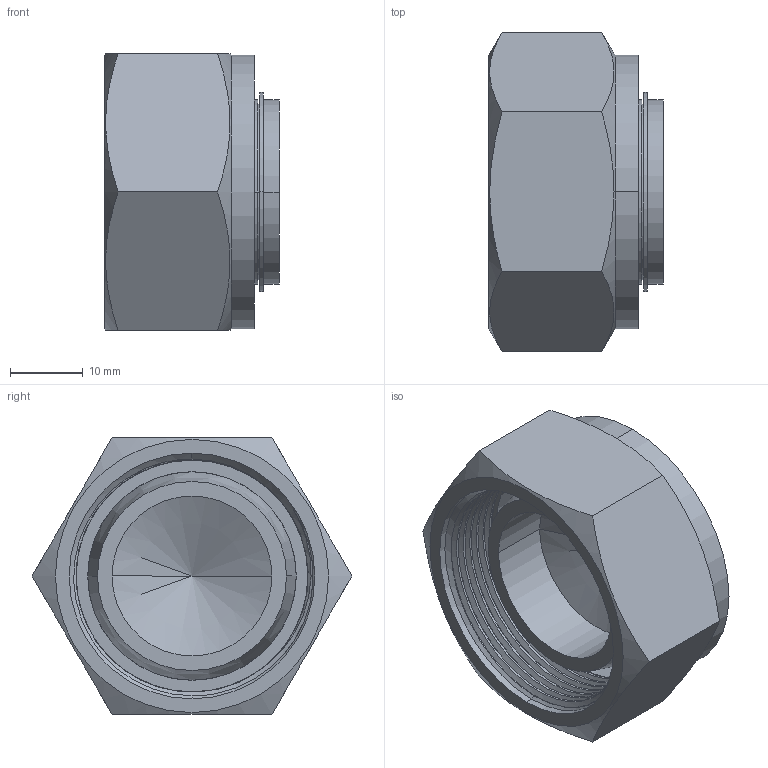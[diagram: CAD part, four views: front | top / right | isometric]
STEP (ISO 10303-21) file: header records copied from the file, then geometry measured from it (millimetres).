
FILE_DESCRIPTION (( 'STEP AP203' ), '1' );
FILE_NAME ('DBA16 SS.STEP', '2009-09-08T04:42:10', ( ' ' ), ( '' ), 'SwSTEP 2.0', 'SolidWorks 2008', '' );
FILE_SCHEMA (( 'CONFIG_CONTROL_DESIGN' ));
Length unit declared in the file: millimetre
Products named in the file (1): DBA16 SS
Bounding box: 24.04 x 43.99 x 38.1 mm (x, y, z)
Volume: 16727.7 mm3; surface area: 9491.2 mm2
Topology: 2 solids, 2 shells, 75 faces, 185 edges, 119 vertices
Faces by surface type: cylinder 41, plane 19, cone 12, bspline 3
Entity records: 3433 total; most frequent: CARTESIAN_POINT 1681, ORIENTED_EDGE 366, DIRECTION 336, EDGE_CURVE 183, AXIS2_PLACEMENT_3D 134, VERTEX_POINT 119, EDGE_LOOP 82, ADVANCED_FACE 75
